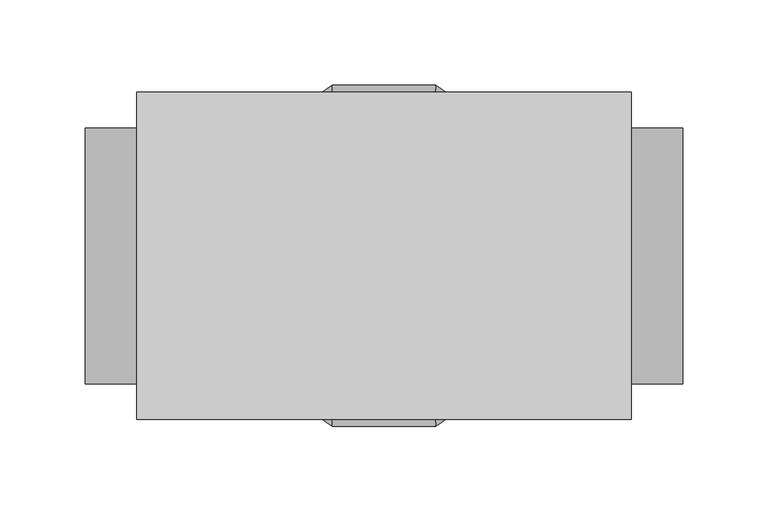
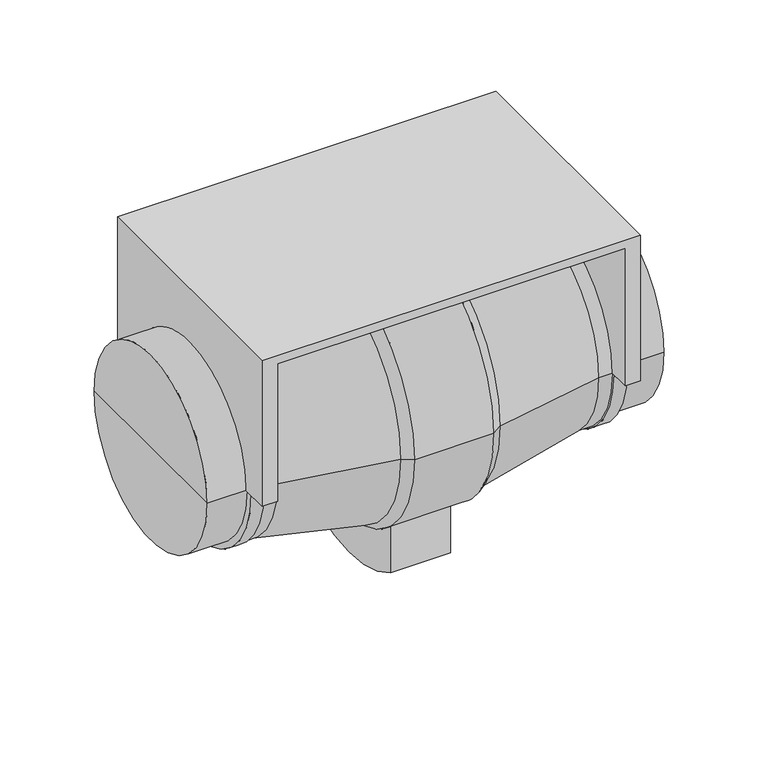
"""IFC4 building model written with IfcOpenShell, lengths in millimetres: unitary equipment geometry, VE-Wentylator-ParaForma-Harmann-ML-Nawiewny : 150/550."""

from ifc_helpers import new_model, si_unit, point, frame, origin, origin_2d, place, context, project, spatial, polyline, circle_curve, trimmed, segment, composite_curve, outline, extrude, source, transform, mapped, element, save
from ifc_brep_helpers import plane_surface, cylinder_surface, revolved_surface, advanced_brep


def unitary_equipment_7b71d7c5(model_context):
    return source(origin(), model_context, "Body", "SolidModel", [
        extrude(outline(composite_curve([segment(trimmed(circle_curve(origin_2d(), 75.0), [point((-75.0, 0.0))], [point((75.0, 0.0))], True, "CARTESIAN"), True, "CONTINUOUS"), segment(polyline([(75.0, 0.0), (80.0, 0.0)]), True, "CONTINUOUS"), segment(trimmed(circle_curve(origin_2d(), 80.0), [point((80.0, 0.0))], [point((-80.0, 0.0))], False, "CARTESIAN"), True, "CONTINUOUS"), segment(polyline([(-80.0, 0.0), (-75.0, 0.0)]), True, "CONTINUOUS")], self_intersect=False)), frame((134.1, 0.0, 0.0), z_axis=(1.0, 0.0, 0.0), x_axis=(0.0, 1.0, 0.0)), (0.0, 0.0, 1.0), 10.0),
        extrude(outline(composite_curve([segment(trimmed(circle_curve(origin_2d(), 75.0), [point((-75.0, 0.0))], [point((75.0, 0.0))], True, "CARTESIAN"), True, "CONTINUOUS"), segment(polyline([(75.0, 0.0), (80.0, 0.0)]), True, "CONTINUOUS"), segment(trimmed(circle_curve(origin_2d(), 80.0), [point((80.0, 0.0))], [point((-80.0, 0.0))], False, "CARTESIAN"), True, "CONTINUOUS"), segment(polyline([(-80.0, 0.0), (-75.0, 0.0)]), True, "CONTINUOUS")], self_intersect=False)), frame((-144.1, 0.0, 0.0), z_axis=(1.0, 0.0, 0.0), x_axis=(0.0, 1.0, 0.0)), (0.0, 0.0, 1.0), 10.0),
        advanced_brep(
        [(-145.0, 96.0, 0.0), (-145.0, 75.0, 0.0), (-145.0, -75.0, 0.0), (-145.0, -96.0, 0.0), (-145.0, -96.0, 118.0), (-145.0, 96.0, 118.0), (-133.3, -96.0, 0.0), (-133.3, -75.0, 0.0), (-133.3, 75.0, 0.0), (-133.3, 96.0, 0.0), (-133.3, 96.0, 111.3), (-133.3, -96.0, 111.3), (133.3, -96.0, 111.3), (133.3, 96.0, 111.3), (133.3, -96.0, 0.0), (145.0, -96.0, 0.0), (145.0, -96.0, 118.0), (145.0, 96.0, 118.0), (145.0, 96.0, 0.0), (133.3, 96.0, 0.0), (133.3, 75.0, 0.0), (133.3, -75.0, 0.0), (145.0, -75.0, 0.0), (145.0, 75.0, 0.0)],
        [
            (0, 1),
            (1, 2, circle_curve(frame((-145.0, 0.0, 0.0), z_axis=(1.0, 0.0, 0.0), x_axis=(0.0, 1.0, 0.0)), 75.0)),
            (2, 3),
            (3, 4),
            (4, 5),
            (5, 0),
            (6, 7),
            (7, 8, circle_curve(frame((-133.3, 0.0, 0.0), z_axis=(-1.0, 0.0, 0.0), x_axis=(0.0, 1.0, 0.0)), 75.0)),
            (8, 9),
            (9, 10),
            (10, 11),
            (11, 6),
            (12, 11),
            (10, 13),
            (13, 12),
            (3, 6),
            (12, 14),
            (14, 15),
            (15, 16),
            (16, 4),
            (16, 17),
            (17, 5),
            (17, 18),
            (18, 19),
            (19, 13),
            (9, 0),
            (8, 1),
            (7, 2),
            (19, 20),
            (20, 21, circle_curve(frame((133.3, 0.0, 0.0), z_axis=(1.0, 0.0, 0.0), x_axis=(0.0, 1.0, 0.0)), 75.0)),
            (21, 14),
            (15, 22),
            (22, 23, circle_curve(frame((145.0, 0.0, 0.0), z_axis=(-1.0, 0.0, 0.0), x_axis=(0.0, 1.0, 0.0)), 75.0)),
            (23, 18),
            (23, 20),
            (22, 21),
        ],
        [
            plane_surface(frame((-145.0, 0.0, 0.0), z_axis=(-1.0, 0.0, 0.0), x_axis=(0.0, 0.0, 1.0))),
            plane_surface(frame((-133.3, 0.0, 0.0), z_axis=(1.0, 0.0, 0.0), x_axis=(0.0, 0.0, 1.0))),
            plane_surface(frame((-133.3, 96.0, 111.3), z_axis=(0.0, 0.0, -1.0), x_axis=(1.0, 0.0, 0.0))),
            plane_surface(frame((-145.0, -96.0, 0.0), z_axis=(0.0, -1.0, 0.0), x_axis=(1.0, 0.0, 0.0))),
            plane_surface(frame((-145.0, -96.0, 118.0), z_axis=(0.0, 0.0, 1.0), x_axis=(1.0, 0.0, 0.0))),
            plane_surface(frame((-145.0, 96.0, 118.0), z_axis=(0.0, 1.0, 0.0), x_axis=(1.0, 0.0, 0.0))),
            plane_surface(frame((-145.0, 96.0, 0.0), z_axis=(0.0, 0.0, -1.0), x_axis=(1.0, 0.0, 0.0))),
            revolved_surface(polyline([(-133.3, 75.0, 0.0), (-145.0, 75.0, 0.0)]), (-145.0, 0.0, 0.0), (1.0, 0.0, 0.0)),
            plane_surface(frame((-145.0, -75.0, 0.0), z_axis=(0.0, 0.0, -1.0), x_axis=(1.0, 0.0, 0.0))),
            plane_surface(frame((133.3, 0.0, 0.0), z_axis=(-1.0, 0.0, 0.0), x_axis=(0.0, 0.0, 1.0))),
            plane_surface(frame((145.0, 0.0, 0.0), z_axis=(1.0, 0.0, 0.0), x_axis=(0.0, 0.0, 1.0))),
            plane_surface(frame((133.3, 96.0, 0.0), z_axis=(0.0, 0.0, -1.0), x_axis=(1.0, 0.0, 0.0))),
            revolved_surface(polyline([(145.0, 75.0, 0.0), (133.3, 75.0, 0.0)]), (133.3, 0.0, 0.0), (1.0, 0.0, 0.0)),
            plane_surface(frame((133.3, -75.0, 0.0), z_axis=(0.0, 0.0, -1.0), x_axis=(1.0, 0.0, 0.0))),
        ],
        [
            (0, [[1, 2, 3, 4, 5, 6]]),
            (1, [[7, 8, 9, 10, 11, 12]]),
            (2, [[13, -11, 14, 15]]),
            (3, [[-4, 16, -12, -13, 17, 18, 19, 20]]),
            (4, [[-5, -20, 21, 22]]),
            (5, [[-6, -22, 23, 24, 25, -14, -10, 26]]),
            (6, [[-1, -26, -9, 27]]),
            (7, [[-2, -27, -8, 28]]),
            (8, [[-3, -28, -7, -16]]),
            (9, [[29, 30, 31, -17, -15, -25]]),
            (10, [[-23, -21, -19, 32, 33, 34]]),
            (11, [[-29, -24, -34, 35]]),
            (12, [[-30, -35, -33, 36]]),
            (13, [[-31, -36, -32, -18]]),
        ],
    ),
        advanced_brep(
        [(-22.9, 55.0, -121.5), (-22.9, -55.0, -121.5), (-22.9, -55.0, -83.5164654), (-22.9, 55.0, -83.5164654), (22.9, -55.0, -121.5), (22.9, 55.0, -121.5), (22.9, 55.0, -83.5164654), (22.9, -55.0, -83.5164654), (175.0, -75.0, 0.0), (175.0, 75.0, 0.0), (175.0, 0.0, 0.0), (133.3, -75.0, 0.0), (133.3, 75.0, 0.0), (30.3, -100.0, 0.0), (30.3, 100.0, 0.0), (37.9, 94.9, 0.0), (37.9, -94.9, 0.0), (-30.3, -100.0, 0.0), (-30.3, 100.0, 0.0), (-37.9, -94.9, 0.0), (-37.9, 94.9, 0.0), (-175.0, -75.0, 0.0), (-175.0, 75.0, 0.0), (-133.3, 75.0, 0.0), (-133.3, -75.0, 0.0), (-175.0, 0.0, 0.0), (133.3, -78.9, 0.0), (133.3, 78.9, 0.0), (123.0, -78.9, 0.0), (123.0, 78.9, 0.0), (-123.0, -78.9, 0.0), (-123.0, 78.9, 0.0), (-133.3, -78.9, 0.0), (-133.3, 78.9, 0.0)],
        [
            (0, 1, circle_curve(frame((-22.9, 0.0, -37.9835346), z_axis=(-1.0, 0.0, 0.0), x_axis=(0.0, 0.999999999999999, 0.0)), 100.0)),
            (1, 2),
            (2, 3, circle_curve(frame((-22.9, 0.0, 0.0), z_axis=(1.0, 0.0, 0.0), x_axis=(0.0, 0.999999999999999, 0.0)), 100.0)),
            (3, 0),
            (4, 5, circle_curve(frame((22.9, 0.0, -37.9835346), z_axis=(1.0, 0.0, 0.0), x_axis=(0.0, 0.999999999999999, 0.0)), 100.0)),
            (5, 6),
            (6, 7, circle_curve(frame((22.9, 0.0, 0.0), z_axis=(-1.0, 0.0, 0.0), x_axis=(0.0, 0.999999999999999, 0.0)), 100.0)),
            (7, 4),
            (0, 5),
            (4, 1),
            (7, 2),
            (3, 6),
            (8, 9, circle_curve(frame((175.0, 0.0, 0.0), z_axis=(1.0, 0.0, 0.0), x_axis=(0.0, 0.999999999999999, 0.0)), 75.0)),
            (9, 10),
            (10, 8),
            (9, 8, circle_curve(frame((175.0, 0.0, 0.0), z_axis=(1.0, 0.0, 0.0), x_axis=(0.0, 0.999999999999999, 0.0)), 75.0)),
            (8, 11),
            (11, 12, circle_curve(frame((133.3, 0.0, 0.0), z_axis=(1.0, 0.0, 0.0), x_axis=(0.0, 0.999999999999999, 0.0)), 75.0)),
            (12, 9),
            (12, 11, circle_curve(frame((133.3, 0.0, 0.0), z_axis=(1.0, 0.0, 0.0), x_axis=(0.0, 0.999999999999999, 0.0)), 75.0)),
            (13, 14, circle_curve(frame((30.3, 0.0, 0.0), z_axis=(1.0, 0.0, 0.0), x_axis=(0.0, 0.999999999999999, 0.0)), 100.0)),
            (14, 15),
            (15, 16, circle_curve(frame((37.9, 0.0, 0.0), z_axis=(-1.0, 0.0, 0.0), x_axis=(0.0, 0.999999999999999, 0.0)), 94.9)),
            (16, 13),
            (14, 13, circle_curve(frame((30.3, 0.0, 0.0), z_axis=(1.0, 0.0, 0.0), x_axis=(0.0, 0.999999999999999, 0.0)), 100.0)),
            (16, 15, circle_curve(frame((37.9, 0.0, 0.0), z_axis=(-1.0, 0.0, 0.0), x_axis=(0.0, 0.999999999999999, 0.0)), 94.9)),
            (13, 17),
            (17, 18, circle_curve(frame((-30.3, 0.0, 0.0), z_axis=(1.0, 0.0, 0.0), x_axis=(0.0, 0.999999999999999, 0.0)), 100.0)),
            (18, 14),
            (18, 17, circle_curve(frame((-30.3, 0.0, 0.0), z_axis=(1.0, 0.0, 0.0), x_axis=(0.0, 0.999999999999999, 0.0)), 100.0)),
            (17, 19),
            (19, 20, circle_curve(frame((-37.9, 0.0, 0.0), z_axis=(1.0, 0.0, 0.0), x_axis=(0.0, 0.999999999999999, 0.0)), 94.9)),
            (20, 18),
            (20, 19, circle_curve(frame((-37.9, 0.0, 0.0), z_axis=(1.0, 0.0, 0.0), x_axis=(0.0, 0.999999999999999, 0.0)), 94.9)),
            (21, 22, circle_curve(frame((-175.0, 0.0, 0.0), z_axis=(1.0, 0.0, 0.0), x_axis=(0.0, 0.999999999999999, 0.0)), 75.0)),
            (22, 23),
            (23, 24, circle_curve(frame((-133.3, 0.0, 0.0), z_axis=(-1.0, 0.0, 0.0), x_axis=(0.0, 0.999999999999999, 0.0)), 75.0)),
            (24, 21),
            (22, 21, circle_curve(frame((-175.0, 0.0, 0.0), z_axis=(1.0, 0.0, 0.0), x_axis=(0.0, 0.999999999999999, 0.0)), 75.0)),
            (24, 23, circle_curve(frame((-133.3, 0.0, 0.0), z_axis=(-1.0, 0.0, 0.0), x_axis=(0.0, 0.999999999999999, 0.0)), 75.0)),
            (21, 25),
            (25, 22),
            (11, 26),
            (26, 27, circle_curve(frame((133.3, 0.0, 0.0), z_axis=(1.0, 0.0, 0.0), x_axis=(0.0, 0.999999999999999, 0.0)), 78.9)),
            (27, 12),
            (27, 26, circle_curve(frame((133.3, 0.0, 0.0), z_axis=(1.0, 0.0, 0.0), x_axis=(0.0, 0.999999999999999, 0.0)), 78.9)),
            (26, 28),
            (28, 29, circle_curve(frame((123.0, 0.0, 0.0), z_axis=(1.0, 0.0, 0.0), x_axis=(0.0, 0.999999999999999, 0.0)), 78.9)),
            (29, 27),
            (29, 28, circle_curve(frame((123.0, 0.0, 0.0), z_axis=(1.0, 0.0, 0.0), x_axis=(0.0, 0.999999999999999, 0.0)), 78.9)),
            (15, 29),
            (28, 16),
            (19, 30),
            (30, 31, circle_curve(frame((-123.0, 0.0, 0.0), z_axis=(1.0, 0.0, 0.0), x_axis=(0.0, 0.999999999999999, 0.0)), 78.9)),
            (31, 20),
            (31, 30, circle_curve(frame((-123.0, 0.0, 0.0), z_axis=(1.0, 0.0, 0.0), x_axis=(0.0, 0.999999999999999, 0.0)), 78.9)),
            (30, 32),
            (32, 33, circle_curve(frame((-133.3, 0.0, 0.0), z_axis=(1.0, 0.0, 0.0), x_axis=(0.0, 0.999999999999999, 0.0)), 78.9)),
            (33, 31),
            (33, 32, circle_curve(frame((-133.3, 0.0, 0.0), z_axis=(1.0, 0.0, 0.0), x_axis=(0.0, 0.999999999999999, 0.0)), 78.9)),
            (23, 33),
            (32, 24),
        ],
        [
            plane_surface(frame((-22.9, 0.0, 0.0), z_axis=(-1.0, 0.0, 0.0), x_axis=(0.0, 0.0, 1.0))),
            plane_surface(frame((22.9, 0.0, 0.0), z_axis=(1.0, 0.0, 0.0), x_axis=(0.0, 0.0, 1.0))),
            cylinder_surface(frame((-22.9, 0.0, -37.9835346), z_axis=(-0.9999999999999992, 0.0, 0.0), x_axis=(0.0, 0.999999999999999, 0.0)), 100.0),
            plane_surface(frame((-22.9, -55.0, -121.5), z_axis=(0.0, -1.0, 0.0), x_axis=(1.0, 0.0, 0.0))),
            plane_surface(frame((-22.9, 55.0, 0.0), z_axis=(0.0, 1.0, 0.0), x_axis=(1.0, 0.0, 0.0))),
            plane_surface(frame((175.0, 0.0, 0.0), z_axis=(1.0, 0.0, 0.0), x_axis=(0.0, 1.0, 0.0))),
            cylinder_surface(frame((-175.0, 0.0, 0.0), z_axis=(-0.9999999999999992, 0.0, 0.0), x_axis=(0.0, 0.999999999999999, 0.0)), 75.0),
            revolved_surface(polyline([(37.9, 94.9, 0.0), (30.3, 100.0, 0.0)]), (-175.0, 0.0, 0.0), (-0.9999999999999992, 0.0, 0.0)),
            cylinder_surface(frame((-175.0, 0.0, 0.0), z_axis=(-0.9999999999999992, 0.0, 0.0), x_axis=(0.0, 0.999999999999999, 0.0)), 100.0),
            revolved_surface(polyline([(-30.3, 100.0, 0.0), (-37.9, 94.9, 0.0)]), (-175.0, 0.0, 0.0), (-0.9999999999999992, 0.0, 0.0)),
            plane_surface(frame((-175.0, 0.0, 0.0), z_axis=(-1.0, 0.0, 0.0), x_axis=(0.0, 1.0, 0.0))),
            plane_surface(frame((133.3, 0.0, 0.0), z_axis=(1.0, 0.0, 0.0), x_axis=(0.0, 1.0, 0.0))),
            cylinder_surface(frame((-175.0, 0.0, 0.0), z_axis=(-0.9999999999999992, 0.0, 0.0), x_axis=(0.0, 0.999999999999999, 0.0)), 78.9),
            revolved_surface(polyline([(123.0, 78.9, 0.0), (37.9, 94.9, 0.0)]), (-175.0, 0.0, 0.0), (-0.9999999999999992, 0.0, 0.0)),
            revolved_surface(polyline([(-37.9, 94.9, 0.0), (-123.0, 78.9, 0.0)]), (-175.0, 0.0, 0.0), (-0.9999999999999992, 0.0, 0.0)),
            plane_surface(frame((-133.3, 0.0, 0.0), z_axis=(-1.0, 0.0, 0.0), x_axis=(0.0, 1.0, 0.0))),
        ],
        [
            (0, [[1, 2, 3, 4]]),
            (1, [[5, 6, 7, 8]]),
            (2, [[-1, 9, -5, 10]]),
            (3, [[-10, -8, 11, -2]]),
            (4, [[-9, -4, 12, -6]]),
            (5, [[13, 14, 15]]),
            (5, [[-14, 16, -15]]),
            (6, [[-13, 17, 18, 19]]),
            (6, [[-16, -19, 20, -17]]),
            (7, [[21, 22, 23, 24]]),
            (7, [[-22, 25, -24, 26]]),
            (8, [[-21, 27, 28, 29], [-3, -11, -7, -12]]),
            (8, [[-25, -29, 30, -27]]),
            (9, [[-28, 31, 32, 33]]),
            (9, [[-30, -33, 34, -31]]),
            (6, [[35, 36, 37, 38]]),
            (6, [[-36, 39, -38, 40]]),
            (10, [[-35, 41, 42]]),
            (10, [[-39, -42, -41]]),
            (11, [[-18, 43, 44, 45]]),
            (11, [[-20, -45, 46, -43]]),
            (12, [[-44, 47, 48, 49]]),
            (12, [[-46, -49, 50, -47]]),
            (13, [[-23, 51, -48, 52]]),
            (13, [[-26, -52, -50, -51]]),
            (14, [[-32, 53, 54, 55]]),
            (14, [[-34, -55, 56, -53]]),
            (12, [[-54, 57, 58, 59]]),
            (12, [[-56, -59, 60, -57]]),
            (15, [[-37, 61, -58, 62]]),
            (15, [[-40, -62, -60, -61]]),
        ],
    ),
    ])


if __name__ == "__main__":
    model = new_model("IFC4")
    model_context = context("Model", 3, world=origin())
    ifc_project = project(units=[si_unit("LENGTHUNIT", "METRE", prefix="MILLI")], contexts=[model_context])
    site = spatial("IfcSite", under=ifc_project)
    building = spatial("IfcBuilding", under=site)
    placement = place(None, origin())
    unitary_equipment_shape = unitary_equipment_7b71d7c5(model_context)
    element("IfcUnitaryEquipment", 1, ObjectType="VE-Wentylator-ParaForma-Harmann-ML-Nawiewny : 150/550", at=placement, inside=building, context=model_context, shape_type="MappedRepresentation", body=[
        mapped(unitary_equipment_shape, transform((0.0, 0.0, 0.0), x_axis=(1.0, 0.0, 0.0), y_axis=(0.0, 1.0, 0.0), z_axis=(0.0, 0.0, 1.0))),
    ])
    save(model, "model.ifc")
